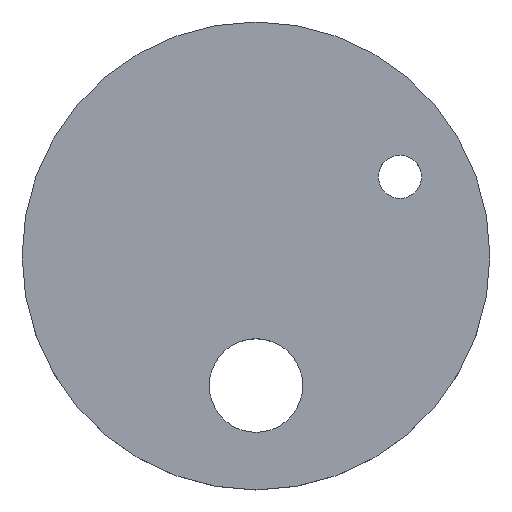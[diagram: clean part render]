
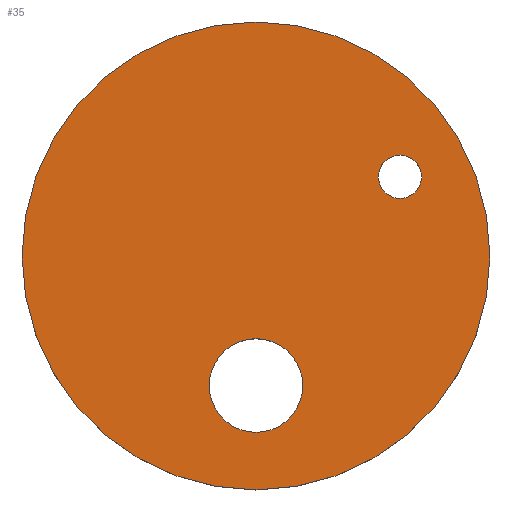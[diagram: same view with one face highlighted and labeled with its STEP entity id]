
A CAD part, top view. The second image highlights one B-rep face of the part: STEP entity #35.
In plain terms, the highlighted planar face has unit normal (0, 0, 1).
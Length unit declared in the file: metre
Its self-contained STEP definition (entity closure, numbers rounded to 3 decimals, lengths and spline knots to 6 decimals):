
#35 = ADVANCED_FACE( '', ( #69, #70, #71 ), #72, .T. );
#69 = FACE_BOUND( '', #98, .T. );
#70 = FACE_BOUND( '', #99, .T. );
#71 = FACE_OUTER_BOUND( '', #100, .T. );
#72 = PLANE( '', #101 );
#98 = EDGE_LOOP( '', ( #127 ) );
#99 = EDGE_LOOP( '', ( #128 ) );
#100 = EDGE_LOOP( '', ( #129 ) );
#101 = AXIS2_PLACEMENT_3D( '', #130, #131, #132 );
#127 = ORIENTED_EDGE( '', *, *, #143, .F. );
#128 = ORIENTED_EDGE( '', *, *, #140, .F. );
#129 = ORIENTED_EDGE( '', *, *, #148, .T. );
#130 = CARTESIAN_POINT( '', ( 0., 0., 0.008 ) );
#131 = DIRECTION( '', ( 0., 0., 1. ) );
#132 = DIRECTION( '', ( 1., 0., 0. ) );
#140 = EDGE_CURVE( '', #151, #151, #152, .T. );
#143 = EDGE_CURVE( '', #156, #156, #157, .T. );
#148 = EDGE_CURVE( '', #164, #164, #165, .T. );
#151 = VERTEX_POINT( '', #168 );
#152 = CIRCLE( '', #169, 0.003 );
#156 = VERTEX_POINT( '', #173 );
#157 = CIRCLE( '', #174, 0.0065 );
#164 = VERTEX_POINT( '', #181 );
#165 = CIRCLE( '', #182, 0.0325 );
#168 = CARTESIAN_POINT( '', ( 0.023, 0.011, 0.008 ) );
#169 = AXIS2_PLACEMENT_3D( '', #184, #185, #186 );
#173 = CARTESIAN_POINT( '', ( 0.0065, -0.018, 0.008 ) );
#174 = AXIS2_PLACEMENT_3D( '', #190, #191, #192 );
#181 = CARTESIAN_POINT( '', ( 0.0325, 0., 0.008 ) );
#182 = AXIS2_PLACEMENT_3D( '', #199, #200, #201 );
#184 = CARTESIAN_POINT( '', ( 0.02, 0.011, 0.008 ) );
#185 = DIRECTION( '', ( 0., 0., 1. ) );
#186 = DIRECTION( '', ( 1., 0., 0. ) );
#190 = CARTESIAN_POINT( '', ( 0., -0.018, 0.008 ) );
#191 = DIRECTION( '', ( 0., 0., 1. ) );
#192 = DIRECTION( '', ( 1., 0., 0. ) );
#199 = CARTESIAN_POINT( '', ( 0., 0., 0.008 ) );
#200 = DIRECTION( '', ( 0., 0., 1. ) );
#201 = DIRECTION( '', ( 1., 0., 0. ) );
